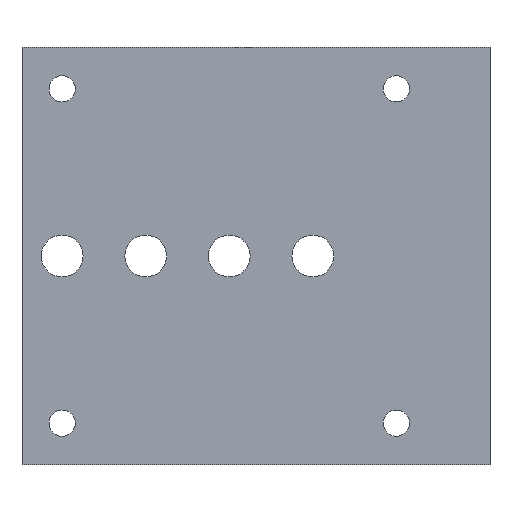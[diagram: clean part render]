
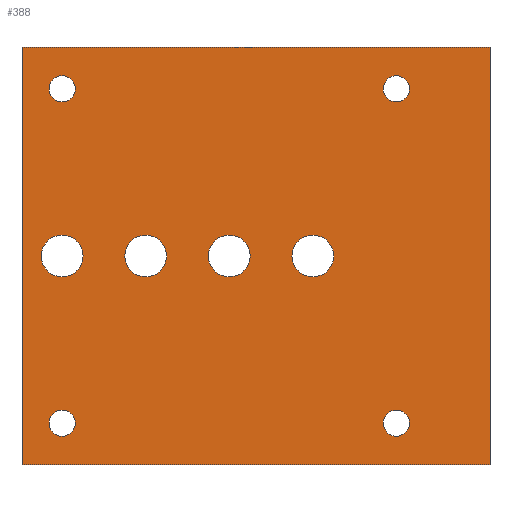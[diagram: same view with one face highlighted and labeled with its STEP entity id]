
A CAD part, left-side view. The second image highlights one B-rep face of the part: STEP entity #388.
In plain terms, the highlighted planar face has unit normal (-1, 0, 0).
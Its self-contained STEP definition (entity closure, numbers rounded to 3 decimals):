
#16=LINE($,#623,#34);
#27=LINE($,#646,#45);
#29=LINE($,#649,#47);
#30=LINE($,#650,#48);
#34=VECTOR($,#523,25.);
#45=VECTOR($,#542,25.);
#47=VECTOR($,#546,28.);
#48=VECTOR($,#547,28.);
#56=PLANE($,#437);
#88=FACE_BOUND($,#160,.T.);
#89=FACE_BOUND($,#161,.T.);
#90=FACE_BOUND($,#162,.T.);
#91=FACE_BOUND($,#163,.T.);
#92=FACE_BOUND($,#164,.T.);
#93=FACE_BOUND($,#165,.T.);
#94=FACE_BOUND($,#166,.T.);
#95=FACE_BOUND($,#167,.T.);
#96=FACE_BOUND($,#168,.T.);
#160=EDGE_LOOP($,(#333));
#161=EDGE_LOOP($,(#334));
#162=EDGE_LOOP($,(#335));
#163=EDGE_LOOP($,(#336));
#164=EDGE_LOOP($,(#337));
#165=EDGE_LOOP($,(#338));
#166=EDGE_LOOP($,(#339));
#167=EDGE_LOOP($,(#340));
#168=EDGE_LOOP($,(#341,#342,#343,#344));
#172=CIRCLE($,#396,0.784);
#174=CIRCLE($,#399,0.784);
#176=CIRCLE($,#402,0.784);
#178=CIRCLE($,#405,0.784);
#183=CIRCLE($,#413,1.25);
#185=CIRCLE($,#416,1.25);
#190=CIRCLE($,#424,1.25);
#194=CIRCLE($,#431,1.25);
#196=VERTEX_POINT($,#556);
#198=VERTEX_POINT($,#561);
#200=VERTEX_POINT($,#566);
#202=VERTEX_POINT($,#571);
#207=VERTEX_POINT($,#584);
#209=VERTEX_POINT($,#589);
#214=VERTEX_POINT($,#602);
#218=VERTEX_POINT($,#613);
#219=VERTEX_POINT($,#616);
#222=VERTEX_POINT($,#621);
#229=VERTEX_POINT($,#643);
#230=VERTEX_POINT($,#645);
#232=EDGE_CURVE($,#196,#196,#172,.T.);
#234=EDGE_CURVE($,#198,#198,#174,.T.);
#236=EDGE_CURVE($,#200,#200,#176,.T.);
#238=EDGE_CURVE($,#202,#202,#178,.T.);
#243=EDGE_CURVE($,#207,#207,#183,.T.);
#245=EDGE_CURVE($,#209,#209,#185,.T.);
#250=EDGE_CURVE($,#214,#214,#190,.T.);
#254=EDGE_CURVE($,#218,#218,#194,.T.);
#258=EDGE_CURVE($,#222,#219,#16,.T.);
#269=EDGE_CURVE($,#230,#229,#27,.T.);
#271=EDGE_CURVE($,#229,#219,#29,.T.);
#272=EDGE_CURVE($,#230,#222,#30,.T.);
#333=ORIENTED_EDGE($,*,*,#232,.T.);
#334=ORIENTED_EDGE($,*,*,#234,.T.);
#335=ORIENTED_EDGE($,*,*,#236,.T.);
#336=ORIENTED_EDGE($,*,*,#238,.T.);
#337=ORIENTED_EDGE($,*,*,#243,.T.);
#338=ORIENTED_EDGE($,*,*,#245,.T.);
#339=ORIENTED_EDGE($,*,*,#250,.T.);
#340=ORIENTED_EDGE($,*,*,#254,.T.);
#341=ORIENTED_EDGE($,*,*,#271,.T.);
#342=ORIENTED_EDGE($,*,*,#258,.F.);
#343=ORIENTED_EDGE($,*,*,#272,.F.);
#344=ORIENTED_EDGE($,*,*,#269,.T.);
#388=ADVANCED_FACE($,(#88,#89,#90,#91,#92,#93,#94,#95,#96),#56,.T.);
#396=AXIS2_PLACEMENT_3D($,#557,#446,#447);
#399=AXIS2_PLACEMENT_3D($,#562,#452,#453);
#402=AXIS2_PLACEMENT_3D($,#567,#458,#459);
#405=AXIS2_PLACEMENT_3D($,#572,#464,#465);
#413=AXIS2_PLACEMENT_3D($,#585,#480,#481);
#416=AXIS2_PLACEMENT_3D($,#590,#486,#487);
#424=AXIS2_PLACEMENT_3D($,#603,#502,#503);
#431=AXIS2_PLACEMENT_3D($,#614,#516,#517);
#437=AXIS2_PLACEMENT_3D($,#648,#544,#545);
#446=DIRECTION('center_axis',(1.,0.,0.));
#447=DIRECTION('ref_axis',(0.,0.,1.));
#452=DIRECTION('center_axis',(1.,0.,0.));
#453=DIRECTION('ref_axis',(0.,0.,1.));
#458=DIRECTION('center_axis',(1.,0.,0.));
#459=DIRECTION('ref_axis',(0.,0.,1.));
#464=DIRECTION('center_axis',(1.,0.,0.));
#465=DIRECTION('ref_axis',(0.,0.,1.));
#480=DIRECTION('center_axis',(1.,0.,0.));
#481=DIRECTION('ref_axis',(0.,0.,-1.));
#486=DIRECTION('center_axis',(1.,0.,0.));
#487=DIRECTION('ref_axis',(0.,0.,-1.));
#502=DIRECTION('center_axis',(1.,0.,0.));
#503=DIRECTION('ref_axis',(0.,0.,-1.));
#516=DIRECTION('center_axis',(1.,0.,0.));
#517=DIRECTION('ref_axis',(0.,0.,-1.));
#523=DIRECTION($,(0.,0.,1.));
#542=DIRECTION($,(0.,0.,1.));
#544=DIRECTION('center_axis',(-1.,0.,0.));
#545=DIRECTION('ref_axis',(0.,0.,1.));
#546=DIRECTION($,(0.,1.,0.));
#547=DIRECTION($,(0.,1.,0.));
#556=CARTESIAN_POINT('',(0.,5.6,23.284));
#557=CARTESIAN_POINT('Origin',(0.,5.6,22.5));
#561=CARTESIAN_POINT('',(0.,25.6,3.284));
#562=CARTESIAN_POINT('Origin',(0.,25.6,2.5));
#566=CARTESIAN_POINT('',(0.,5.6,3.284));
#567=CARTESIAN_POINT('Origin',(0.,5.6,2.5));
#571=CARTESIAN_POINT('',(0.,25.6,23.284));
#572=CARTESIAN_POINT('Origin',(0.,25.6,22.5));
#584=CARTESIAN_POINT('',(0.,15.6,13.75));
#585=CARTESIAN_POINT('Origin',(0.,15.6,12.5));
#589=CARTESIAN_POINT('',(0.,25.6,13.75));
#590=CARTESIAN_POINT('Origin',(0.,25.6,12.5));
#602=CARTESIAN_POINT('',(0.,20.6,13.75));
#603=CARTESIAN_POINT('Origin',(0.,20.6,12.5));
#613=CARTESIAN_POINT('',(0.,10.6,13.75));
#614=CARTESIAN_POINT('Origin',(0.,10.6,12.5));
#616=CARTESIAN_POINT('',(0.,28.,25.));
#621=CARTESIAN_POINT('',(0.,28.,0.));
#623=CARTESIAN_POINT($,(0.,28.,0.));
#643=CARTESIAN_POINT('',(0.,0.,25.));
#645=CARTESIAN_POINT('',(0.,0.,0.));
#646=CARTESIAN_POINT($,(0.,0.,0.));
#648=CARTESIAN_POINT('Origin',(0.,0.,0.));
#649=CARTESIAN_POINT($,(0.,0.,25.));
#650=CARTESIAN_POINT($,(0.,0.,0.));
